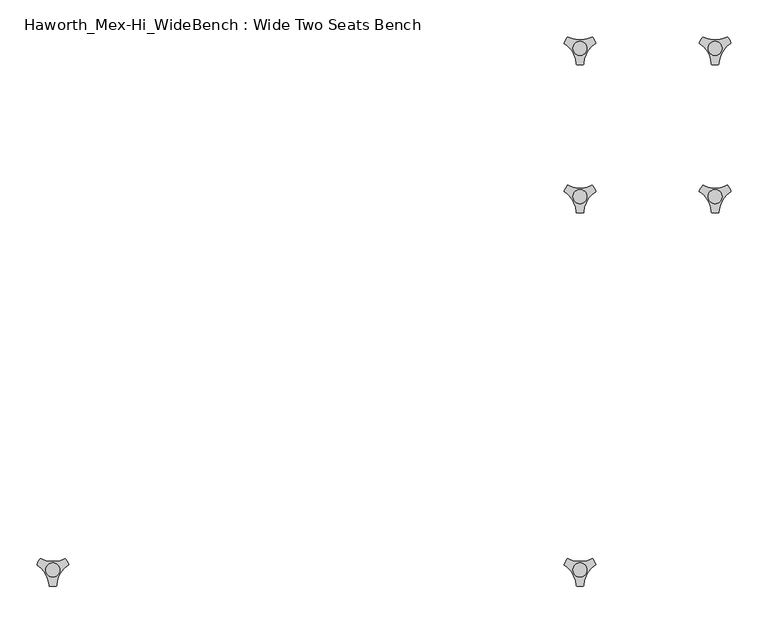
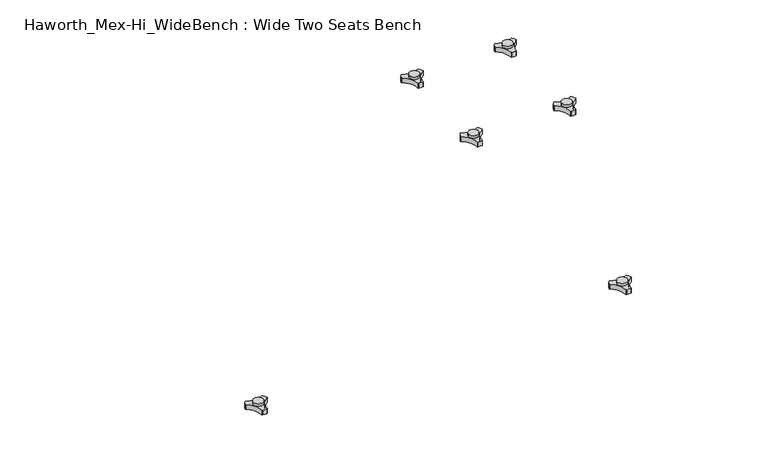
"""IFC4 building model written with IfcOpenShell, lengths in millimetres: furniture geometry, Haworth_Mex-Hi_WideBench : Wide Two Seats Bench."""

from ifc_helpers import new_model, si_unit, frame, origin, place, context, project, spatial, polyline, circle_curve, source, transform, mapped, element, save
from ifc_brep_helpers import plane_surface, cylinder_surface, revolved_surface, advanced_brep


def haworth_mex_hi_widebench_wide_two_seats_bench_e05f9d58(model_context):
    return source(origin(), model_context, "Body", "AdvancedBrep", [
        advanced_brep(
        [(373.838792, -130.2721038, 98.611642), (369.6162038, -137.585841, 98.611642), (370.0141527, -138.7518724, 98.611642), (385.8334234, -166.1516574, 98.611642), (386.6442569, -167.0792988, 98.611642), (395.0894355, -167.0792988, 98.611642), (395.8939637, -165.9895174, 98.611642), (411.9962168, -138.4877144, 98.611642), (412.1174938, -137.5858427, 98.611642), (407.8949039, -130.2721023, 98.611642), (406.6861204, -130.0337175, 98.611642), (375.047572, -130.0337175, 98.611642), (400.2397227, -145.1926245, 98.611642), (381.3347108, -145.1926245, 98.611642), (373.838792, -130.2721038, 88.6531552), (375.047572, -130.0337175, 88.6531552), (406.6861204, -130.0337175, 88.6531552), (407.8949039, -130.2721023, 88.6531552), (412.1174938, -137.5858427, 88.6531552), (411.9962168, -138.4877144, 88.6531552), (395.8939637, -165.9895174, 88.6531552), (395.0894355, -167.0792988, 88.6531552), (386.6442569, -167.0792988, 88.6531552), (385.8334234, -166.1516574, 88.6531552), (370.0141527, -138.7518724, 88.6531552), (369.6162038, -137.585841, 88.6531552), (381.3347108, -145.1926245, 103.6569541), (400.2397227, -145.1926245, 103.6569541)],
        [
            (0, 1, circle_curve(frame((392.09828, -145.690049, 98.611642), z_axis=(0.0, 0.0, 1.0), x_axis=(1.0, 0.0, 0.0)), 23.8981576)),
            (1, 2, circle_curve(frame((370.5437624, -137.920202, 98.611642), z_axis=(0.0, 0.0, 1.0), x_axis=(1.0, 0.0, 0.0)), 0.9859828)),
            (2, 3, circle_curve(frame((351.6187827, -167.6389644, 98.611642), z_axis=(0.0, 0.0, -1.0), x_axis=(1.0, 0.0, 0.0)), 34.246952)),
            (3, 4, circle_curve(frame((386.8184668, -166.1088376, 98.611642), z_axis=(0.0, 0.0, 1.0), x_axis=(1.0, 0.0, 0.0)), 0.9859736)),
            (4, 5, circle_curve(frame((390.8668462, -143.5567534, 98.611642), z_axis=(0.0, 0.0, 1.0), x_axis=(1.0, 0.0, 0.0)), 23.8985439)),
            (5, 6, circle_curve(frame((394.9152236, -166.1088262, 98.611642), z_axis=(0.0, 0.0, 1.0), x_axis=(1.0, 0.0, 0.0)), 0.9859852)),
            (6, 7, circle_curve(frame((430.1156373, -167.5614211, 98.611642), z_axis=(0.0, 0.0, -1.0), x_axis=(1.0, 0.0, 0.0)), 34.2577557)),
            (7, 8, circle_curve(frame((411.1899324, -137.9202011, 98.611642), z_axis=(0.0, 0.0, 1.0), x_axis=(1.0, 0.0, 0.0)), 0.9859847)),
            (8, 9, circle_curve(frame((389.6358034, -145.6898258, 98.611642), z_axis=(0.0, 0.0, 1.0), x_axis=(1.0, 0.0, 0.0)), 23.8977184)),
            (9, 10, circle_curve(frame((407.1415576, -130.9082171, 98.611642), z_axis=(0.0, 0.0, 1.0), x_axis=(1.0, 0.0, 0.0)), 0.9859881)),
            (10, 11, circle_curve(frame((390.8668462, -99.6586209, 98.611642), z_axis=(0.0, 0.0, -1.0), x_axis=(1.0, 0.0, 0.0)), 34.2475683)),
            (11, 0, circle_curve(frame((374.5921369, -130.9082131, 98.611642), z_axis=(0.0, 0.0, 1.0), x_axis=(1.0, 0.0, 0.0)), 0.9859835)),
            (12, 13, circle_curve(frame((390.7872168, -145.1926245, 98.611642), z_axis=(0.0, 0.0, -1.0), x_axis=(1.0, 0.0, 0.0)), 9.452506)),
            (13, 12, circle_curve(frame((390.7872168, -145.1926245, 98.611642), z_axis=(0.0, 0.0, -1.0), x_axis=(1.0, 0.0, 0.0)), 9.452506)),
            (14, 15, circle_curve(frame((374.5921369, -130.9082131, 88.6531552), z_axis=(0.0, 0.0, -1.0), x_axis=(1.0, 0.0, 0.0)), 0.9859835)),
            (15, 16, circle_curve(frame((390.8668462, -99.6586209, 88.6531552), z_axis=(0.0, 0.0, 1.0), x_axis=(1.0, 0.0, 0.0)), 34.2475683)),
            (16, 17, circle_curve(frame((407.1415576, -130.9082171, 88.6531552), z_axis=(0.0, 0.0, -1.0), x_axis=(1.0, 0.0, 0.0)), 0.9859881)),
            (17, 18, circle_curve(frame((389.6358034, -145.6898258, 88.6531552), z_axis=(0.0, 0.0, -1.0), x_axis=(1.0, 0.0, 0.0)), 23.8977184)),
            (18, 19, circle_curve(frame((411.1899324, -137.9202011, 88.6531552), z_axis=(0.0, 0.0, -1.0), x_axis=(1.0, 0.0, 0.0)), 0.9859847)),
            (19, 20, circle_curve(frame((430.1156373, -167.5614211, 88.6531552), z_axis=(0.0, 0.0, 1.0), x_axis=(1.0, 0.0, 0.0)), 34.2577557)),
            (20, 21, circle_curve(frame((394.9152236, -166.1088262, 88.6531552), z_axis=(0.0, 0.0, -1.0), x_axis=(1.0, 0.0, 0.0)), 0.9859852)),
            (21, 22, circle_curve(frame((390.8668462, -143.5567534, 88.6531552), z_axis=(0.0, 0.0, -1.0), x_axis=(1.0, 0.0, 0.0)), 23.8985439)),
            (22, 23, circle_curve(frame((386.8184668, -166.1088376, 88.6531552), z_axis=(0.0, 0.0, -1.0), x_axis=(1.0, 0.0, 0.0)), 0.9859736)),
            (23, 24, circle_curve(frame((351.6187827, -167.6389644, 88.6531552), z_axis=(0.0, 0.0, 1.0), x_axis=(1.0, 0.0, 0.0)), 34.246952)),
            (24, 25, circle_curve(frame((370.5437624, -137.920202, 88.6531552), z_axis=(0.0, 0.0, -1.0), x_axis=(1.0, 0.0, 0.0)), 0.9859828)),
            (25, 14, circle_curve(frame((392.09828, -145.690049, 88.6531552), z_axis=(0.0, 0.0, -1.0), x_axis=(1.0, 0.0, 0.0)), 23.8981576)),
            (26, 27, circle_curve(frame((390.7872168, -145.1926245, 103.6569541), z_axis=(0.0, 0.0, 1.0), x_axis=(1.0, 0.0, 0.0)), 9.452506)),
            (27, 26, circle_curve(frame((390.7872168, -145.1926245, 103.6569541), z_axis=(0.0, 0.0, 1.0), x_axis=(1.0, 0.0, 0.0)), 9.452506)),
            (0, 14),
            (25, 1),
            (24, 2),
            (23, 3),
            (22, 4),
            (21, 5),
            (20, 6),
            (19, 7),
            (18, 8),
            (17, 9),
            (16, 10),
            (15, 11),
            (26, 13),
            (12, 27),
        ],
        [
            plane_surface(frame((415.9964377, -145.690049, 98.611642), z_axis=(0.0, 0.0, 1.0), x_axis=(0.0, 1.0, 0.0))),
            plane_surface(frame((415.9964377, -145.690049, 88.6531552), z_axis=(0.0, 0.0, -1.0), x_axis=(0.0, -1.0, 0.0))),
            plane_surface(frame((400.2397227, -145.1926245, 103.6569541), z_axis=(0.0, 0.0, 1.0), x_axis=(0.0, 1.0, 0.0))),
            cylinder_surface(frame((392.09828, -145.690049, 88.6531552), z_axis=(0.0, 0.0, 1.0), x_axis=(1.0, 0.0, 0.0)), 23.8981576),
            cylinder_surface(frame((370.5437624, -137.920202, 88.6531552), z_axis=(0.0, 0.0, 1.0), x_axis=(1.0, 0.0, 0.0)), 0.9859828),
            revolved_surface(polyline([(385.8657347, -167.6389644, 88.6531552), (385.8657347, -167.6389644, 98.611642)]), (351.6187827, -167.6389644, 88.6531552), (0.0, 0.0, -1.0)),
            cylinder_surface(frame((386.8184668, -166.1088376, 88.6531552), z_axis=(0.0, 0.0, 1.0), x_axis=(1.0, 0.0, 0.0)), 0.9859736),
            cylinder_surface(frame((390.8668462, -143.5567534, 88.6531552), z_axis=(0.0, 0.0, 1.0), x_axis=(1.0, 0.0, 0.0)), 23.8985439),
            cylinder_surface(frame((394.9152236, -166.1088262, 88.6531552), z_axis=(0.0, 0.0, 1.0), x_axis=(1.0, 0.0, 0.0)), 0.9859852),
            revolved_surface(polyline([(464.373393, -167.5614211, 88.6531552), (464.373393, -167.5614211, 98.611642)]), (430.1156373, -167.5614211, 88.6531552), (0.0, 0.0, -1.0)),
            cylinder_surface(frame((411.1899324, -137.9202011, 88.6531552), z_axis=(0.0, 0.0, 1.0), x_axis=(1.0, 0.0, 0.0)), 0.9859847),
            cylinder_surface(frame((389.6358034, -145.6898258, 88.6531552), z_axis=(0.0, 0.0, 1.0), x_axis=(1.0, 0.0, 0.0)), 23.8977184),
            cylinder_surface(frame((407.1415576, -130.9082171, 88.6531552), z_axis=(0.0, 0.0, 1.0), x_axis=(1.0, 0.0, 0.0)), 0.9859881),
            revolved_surface(polyline([(425.1144145, -99.6586209, 88.6531552), (425.1144145, -99.6586209, 98.611642)]), (390.8668462, -99.6586209, 88.6531552), (0.0, 0.0, -1.0)),
            cylinder_surface(frame((374.5921369, -130.9082131, 88.6531552), z_axis=(0.0, 0.0, 1.0), x_axis=(1.0, 0.0, 0.0)), 0.9859835),
            cylinder_surface(frame((390.7872168, -145.1926245, 98.611642), z_axis=(0.0, 0.0, 1.0), x_axis=(1.0, 0.0, 0.0)), 9.452506),
        ],
        [
            (0, [[1, 2, 3, 4, 5, 6, 7, 8, 9, 10, 11, 12], [13, 14]]),
            (1, [[15, 16, 17, 18, 19, 20, 21, 22, 23, 24, 25, 26]]),
            (2, [[27, 28]]),
            (3, [[-1, 29, -26, 30]]),
            (4, [[-2, -30, -25, 31]]),
            (5, [[-3, -31, -24, 32]]),
            (6, [[-4, -32, -23, 33]]),
            (7, [[-5, -33, -22, 34]]),
            (8, [[-6, -34, -21, 35]]),
            (9, [[-7, -35, -20, 36]]),
            (10, [[-8, -36, -19, 37]]),
            (11, [[-9, -37, -18, 38]]),
            (12, [[-10, -38, -17, 39]]),
            (13, [[-11, -39, -16, 40]]),
            (14, [[-12, -40, -15, -29]]),
            (15, [[-27, 41, -13, 42]]),
            (15, [[-28, -42, -14, -41]]),
        ],
    ),
        advanced_brep(
        [(373.838792, 69.7278978, 98.611642), (369.6162038, 62.4141605, 98.611642), (370.0141527, 61.2481292, 98.611642), (385.8334234, 33.8483441, 98.611642), (386.6442569, 32.9207027, 98.611642), (395.0894355, 32.9207027, 98.611642), (395.8939637, 34.0104841, 98.611642), (411.9962168, 61.5122871, 98.611642), (412.1174938, 62.4141588, 98.611642), (407.8949039, 69.7278992, 98.611642), (406.6861204, 69.966284, 98.611642), (375.047572, 69.966284, 98.611642), (400.2397227, 54.807377, 98.611642), (381.3347108, 54.807377, 98.611642), (373.838792, 69.7278978, 88.6531552), (375.047572, 69.966284, 88.6531552), (406.6861204, 69.966284, 88.6531552), (407.8949039, 69.7278992, 88.6531552), (412.1174938, 62.4141588, 88.6531552), (411.9962168, 61.5122871, 88.6531552), (395.8939637, 34.0104841, 88.6531552), (395.0894355, 32.9207027, 88.6531552), (386.6442569, 32.9207027, 88.6531552), (385.8334234, 33.8483441, 88.6531552), (370.0141527, 61.2481292, 88.6531552), (369.6162038, 62.4141605, 88.6531552), (381.3347108, 54.807377, 103.6569541), (400.2397227, 54.807377, 103.6569541)],
        [
            (0, 1, circle_curve(frame((392.09828, 54.3099526, 98.611642), z_axis=(0.0, 0.0, 1.0), x_axis=(1.0, 0.0, 0.0)), 23.8981576)),
            (1, 2, circle_curve(frame((370.5437624, 62.0797996, 98.611642), z_axis=(0.0, 0.0, 1.0), x_axis=(1.0, 0.0, 0.0)), 0.9859828)),
            (2, 3, circle_curve(frame((351.6187827, 32.3610372, 98.611642), z_axis=(0.0, 0.0, -1.0), x_axis=(1.0, 0.0, 0.0)), 34.246952)),
            (3, 4, circle_curve(frame((386.8184668, 33.8911639, 98.611642), z_axis=(0.0, 0.0, 1.0), x_axis=(1.0, 0.0, 0.0)), 0.9859736)),
            (4, 5, circle_curve(frame((390.8668462, 56.4432481, 98.611642), z_axis=(0.0, 0.0, 1.0), x_axis=(1.0, 0.0, 0.0)), 23.8985439)),
            (5, 6, circle_curve(frame((394.9152236, 33.8911753, 98.611642), z_axis=(0.0, 0.0, 1.0), x_axis=(1.0, 0.0, 0.0)), 0.9859852)),
            (6, 7, circle_curve(frame((430.1156373, 32.4385804, 98.611642), z_axis=(0.0, 0.0, -1.0), x_axis=(1.0, 0.0, 0.0)), 34.2577557)),
            (7, 8, circle_curve(frame((411.1899324, 62.0798004, 98.611642), z_axis=(0.0, 0.0, 1.0), x_axis=(1.0, 0.0, 0.0)), 0.9859847)),
            (8, 9, circle_curve(frame((389.6358034, 54.3101757, 98.611642), z_axis=(0.0, 0.0, 1.0), x_axis=(1.0, 0.0, 0.0)), 23.8977184)),
            (9, 10, circle_curve(frame((407.1415576, 69.0917844, 98.611642), z_axis=(0.0, 0.0, 1.0), x_axis=(1.0, 0.0, 0.0)), 0.9859881)),
            (10, 11, circle_curve(frame((390.8668462, 100.3413806, 98.611642), z_axis=(0.0, 0.0, -1.0), x_axis=(1.0, 0.0, 0.0)), 34.2475683)),
            (11, 0, circle_curve(frame((374.5921369, 69.0917885, 98.611642), z_axis=(0.0, 0.0, 1.0), x_axis=(1.0, 0.0, 0.0)), 0.9859835)),
            (12, 13, circle_curve(frame((390.7872168, 54.807377, 98.611642), z_axis=(0.0, 0.0, -1.0), x_axis=(1.0, 0.0, 0.0)), 9.452506)),
            (13, 12, circle_curve(frame((390.7872168, 54.807377, 98.611642), z_axis=(0.0, 0.0, -1.0), x_axis=(1.0, 0.0, 0.0)), 9.452506)),
            (14, 15, circle_curve(frame((374.5921369, 69.0917885, 88.6531552), z_axis=(0.0, 0.0, -1.0), x_axis=(1.0, 0.0, 0.0)), 0.9859835)),
            (15, 16, circle_curve(frame((390.8668462, 100.3413806, 88.6531552), z_axis=(0.0, 0.0, 1.0), x_axis=(1.0, 0.0, 0.0)), 34.2475683)),
            (16, 17, circle_curve(frame((407.1415576, 69.0917844, 88.6531552), z_axis=(0.0, 0.0, -1.0), x_axis=(1.0, 0.0, 0.0)), 0.9859881)),
            (17, 18, circle_curve(frame((389.6358034, 54.3101757, 88.6531552), z_axis=(0.0, 0.0, -1.0), x_axis=(1.0, 0.0, 0.0)), 23.8977184)),
            (18, 19, circle_curve(frame((411.1899324, 62.0798004, 88.6531552), z_axis=(0.0, 0.0, -1.0), x_axis=(1.0, 0.0, 0.0)), 0.9859847)),
            (19, 20, circle_curve(frame((430.1156373, 32.4385804, 88.6531552), z_axis=(0.0, 0.0, 1.0), x_axis=(1.0, 0.0, 0.0)), 34.2577557)),
            (20, 21, circle_curve(frame((394.9152236, 33.8911753, 88.6531552), z_axis=(0.0, 0.0, -1.0), x_axis=(1.0, 0.0, 0.0)), 0.9859852)),
            (21, 22, circle_curve(frame((390.8668462, 56.4432481, 88.6531552), z_axis=(0.0, 0.0, -1.0), x_axis=(1.0, 0.0, 0.0)), 23.8985439)),
            (22, 23, circle_curve(frame((386.8184668, 33.8911639, 88.6531552), z_axis=(0.0, 0.0, -1.0), x_axis=(1.0, 0.0, 0.0)), 0.9859736)),
            (23, 24, circle_curve(frame((351.6187827, 32.3610372, 88.6531552), z_axis=(0.0, 0.0, 1.0), x_axis=(1.0, 0.0, 0.0)), 34.246952)),
            (24, 25, circle_curve(frame((370.5437624, 62.0797996, 88.6531552), z_axis=(0.0, 0.0, -1.0), x_axis=(1.0, 0.0, 0.0)), 0.9859828)),
            (25, 14, circle_curve(frame((392.09828, 54.3099526, 88.6531552), z_axis=(0.0, 0.0, -1.0), x_axis=(1.0, 0.0, 0.0)), 23.8981576)),
            (26, 27, circle_curve(frame((390.7872168, 54.807377, 103.6569541), z_axis=(0.0, 0.0, 1.0), x_axis=(1.0, 0.0, 0.0)), 9.452506)),
            (27, 26, circle_curve(frame((390.7872168, 54.807377, 103.6569541), z_axis=(0.0, 0.0, 1.0), x_axis=(1.0, 0.0, 0.0)), 9.452506)),
            (0, 14),
            (25, 1),
            (24, 2),
            (23, 3),
            (22, 4),
            (21, 5),
            (20, 6),
            (19, 7),
            (18, 8),
            (17, 9),
            (16, 10),
            (15, 11),
            (26, 13),
            (12, 27),
        ],
        [
            plane_surface(frame((415.9964377, 54.3099526, 98.611642), z_axis=(0.0, 0.0, 1.0), x_axis=(0.0, 1.0, 0.0))),
            plane_surface(frame((415.9964377, 54.3099526, 88.6531552), z_axis=(0.0, 0.0, -1.0), x_axis=(0.0, -1.0, 0.0))),
            plane_surface(frame((400.2397227, 54.807377, 103.6569541), z_axis=(0.0, 0.0, 1.0), x_axis=(0.0, 1.0, 0.0))),
            cylinder_surface(frame((392.09828, 54.3099526, 88.6531552), z_axis=(0.0, 0.0, 1.0), x_axis=(1.0, 0.0, 0.0)), 23.8981576),
            cylinder_surface(frame((370.5437624, 62.0797996, 88.6531552), z_axis=(0.0, 0.0, 1.0), x_axis=(1.0, 0.0, 0.0)), 0.9859828),
            revolved_surface(polyline([(385.8657347, 32.3610372, 88.6531552), (385.8657347, 32.3610372, 98.611642)]), (351.6187827, 32.3610372, 88.6531552), (0.0, 0.0, -1.0)),
            cylinder_surface(frame((386.8184668, 33.8911639, 88.6531552), z_axis=(0.0, 0.0, 1.0), x_axis=(1.0, 0.0, 0.0)), 0.9859736),
            cylinder_surface(frame((390.8668462, 56.4432481, 88.6531552), z_axis=(0.0, 0.0, 1.0), x_axis=(1.0, 0.0, 0.0)), 23.8985439),
            cylinder_surface(frame((394.9152236, 33.8911753, 88.6531552), z_axis=(0.0, 0.0, 1.0), x_axis=(1.0, 0.0, 0.0)), 0.9859852),
            revolved_surface(polyline([(464.373393, 32.4385804, 88.6531552), (464.373393, 32.4385804, 98.611642)]), (430.1156373, 32.4385804, 88.6531552), (0.0, 0.0, -1.0)),
            cylinder_surface(frame((411.1899324, 62.0798004, 88.6531552), z_axis=(0.0, 0.0, 1.0), x_axis=(1.0, 0.0, 0.0)), 0.9859847),
            cylinder_surface(frame((389.6358034, 54.3101757, 88.6531552), z_axis=(0.0, 0.0, 1.0), x_axis=(1.0, 0.0, 0.0)), 23.8977184),
            cylinder_surface(frame((407.1415576, 69.0917844, 88.6531552), z_axis=(0.0, 0.0, 1.0), x_axis=(1.0, 0.0, 0.0)), 0.9859881),
            revolved_surface(polyline([(425.1144145, 100.3413806, 88.6531552), (425.1144145, 100.3413806, 98.611642)]), (390.8668462, 100.3413806, 88.6531552), (0.0, 0.0, -1.0)),
            cylinder_surface(frame((374.5921369, 69.0917885, 88.6531552), z_axis=(0.0, 0.0, 1.0), x_axis=(1.0, 0.0, 0.0)), 0.9859835),
            cylinder_surface(frame((390.7872168, 54.807377, 98.611642), z_axis=(0.0, 0.0, 1.0), x_axis=(1.0, 0.0, 0.0)), 9.452506),
        ],
        [
            (0, [[1, 2, 3, 4, 5, 6, 7, 8, 9, 10, 11, 12], [13, 14]]),
            (1, [[15, 16, 17, 18, 19, 20, 21, 22, 23, 24, 25, 26]]),
            (2, [[27, 28]]),
            (3, [[-1, 29, -26, 30]]),
            (4, [[-2, -30, -25, 31]]),
            (5, [[-3, -31, -24, 32]]),
            (6, [[-4, -32, -23, 33]]),
            (7, [[-5, -33, -22, 34]]),
            (8, [[-6, -34, -21, 35]]),
            (9, [[-7, -35, -20, 36]]),
            (10, [[-8, -36, -19, 37]]),
            (11, [[-9, -37, -18, 38]]),
            (12, [[-10, -38, -17, 39]]),
            (13, [[-11, -39, -16, 40]]),
            (14, [[-12, -40, -15, -29]]),
            (15, [[-27, 41, -13, 42]]),
            (15, [[-28, -42, -14, -41]]),
        ],
    ),
        advanced_brep(
        [(191.4388063, 69.7278978, 98.611642), (187.2162181, 62.4141605, 98.611642), (187.614167, 61.2481292, 98.611642), (203.4334377, 33.8483441, 98.611642), (204.2442712, 32.9207027, 98.611642), (212.6894498, 32.9207027, 98.611642), (213.493978, 34.0104841, 98.611642), (229.5962311, 61.5122871, 98.611642), (229.7175081, 62.4141588, 98.611642), (225.4949182, 69.7278992, 98.611642), (224.2861347, 69.966284, 98.611642), (192.6475863, 69.966284, 98.611642), (217.839737, 54.807377, 98.611642), (198.9347251, 54.807377, 98.611642), (191.4388063, 69.7278978, 88.6531552), (192.6475863, 69.966284, 88.6531552), (224.2861347, 69.966284, 88.6531552), (225.4949182, 69.7278992, 88.6531552), (229.7175081, 62.4141588, 88.6531552), (229.5962311, 61.5122871, 88.6531552), (213.493978, 34.0104841, 88.6531552), (212.6894498, 32.9207027, 88.6531552), (204.2442712, 32.9207027, 88.6531552), (203.4334377, 33.8483441, 88.6531552), (187.614167, 61.2481292, 88.6531552), (187.2162181, 62.4141605, 88.6531552), (198.9347251, 54.807377, 103.6569541), (217.839737, 54.807377, 103.6569541)],
        [
            (0, 1, circle_curve(frame((209.6982944, 54.3099526, 98.611642), z_axis=(0.0, 0.0, 1.0), x_axis=(1.0, 0.0, 0.0)), 23.8981576)),
            (1, 2, circle_curve(frame((188.1437767, 62.0797996, 98.611642), z_axis=(0.0, 0.0, 1.0), x_axis=(1.0, 0.0, 0.0)), 0.9859828)),
            (2, 3, circle_curve(frame((169.218797, 32.3610372, 98.611642), z_axis=(0.0, 0.0, -1.0), x_axis=(1.0, 0.0, 0.0)), 34.246952)),
            (3, 4, circle_curve(frame((204.4184811, 33.8911639, 98.611642), z_axis=(0.0, 0.0, 1.0), x_axis=(1.0, 0.0, 0.0)), 0.9859736)),
            (4, 5, circle_curve(frame((208.4668605, 56.4432481, 98.611642), z_axis=(0.0, 0.0, 1.0), x_axis=(1.0, 0.0, 0.0)), 23.8985439)),
            (5, 6, circle_curve(frame((212.5152379, 33.8911753, 98.611642), z_axis=(0.0, 0.0, 1.0), x_axis=(1.0, 0.0, 0.0)), 0.9859852)),
            (6, 7, circle_curve(frame((247.7156517, 32.4385804, 98.611642), z_axis=(0.0, 0.0, -1.0), x_axis=(1.0, 0.0, 0.0)), 34.2577557)),
            (7, 8, circle_curve(frame((228.7899467, 62.0798004, 98.611642), z_axis=(0.0, 0.0, 1.0), x_axis=(1.0, 0.0, 0.0)), 0.9859847)),
            (8, 9, circle_curve(frame((207.2358178, 54.3101757, 98.611642), z_axis=(0.0, 0.0, 1.0), x_axis=(1.0, 0.0, 0.0)), 23.8977184)),
            (9, 10, circle_curve(frame((224.7415719, 69.0917844, 98.611642), z_axis=(0.0, 0.0, 1.0), x_axis=(1.0, 0.0, 0.0)), 0.9859881)),
            (10, 11, circle_curve(frame((208.4668605, 100.3413806, 98.611642), z_axis=(0.0, 0.0, -1.0), x_axis=(1.0, 0.0, 0.0)), 34.2475683)),
            (11, 0, circle_curve(frame((192.1921512, 69.0917885, 98.611642), z_axis=(0.0, 0.0, 1.0), x_axis=(1.0, 0.0, 0.0)), 0.9859835)),
            (12, 13, circle_curve(frame((208.3872311, 54.807377, 98.611642), z_axis=(0.0, 0.0, -1.0), x_axis=(1.0, 0.0, 0.0)), 9.452506)),
            (13, 12, circle_curve(frame((208.3872311, 54.807377, 98.611642), z_axis=(0.0, 0.0, -1.0), x_axis=(1.0, 0.0, 0.0)), 9.452506)),
            (14, 15, circle_curve(frame((192.1921512, 69.0917885, 88.6531552), z_axis=(0.0, 0.0, -1.0), x_axis=(1.0, 0.0, 0.0)), 0.9859835)),
            (15, 16, circle_curve(frame((208.4668605, 100.3413806, 88.6531552), z_axis=(0.0, 0.0, 1.0), x_axis=(1.0, 0.0, 0.0)), 34.2475683)),
            (16, 17, circle_curve(frame((224.7415719, 69.0917844, 88.6531552), z_axis=(0.0, 0.0, -1.0), x_axis=(1.0, 0.0, 0.0)), 0.9859881)),
            (17, 18, circle_curve(frame((207.2358178, 54.3101757, 88.6531552), z_axis=(0.0, 0.0, -1.0), x_axis=(1.0, 0.0, 0.0)), 23.8977184)),
            (18, 19, circle_curve(frame((228.7899467, 62.0798004, 88.6531552), z_axis=(0.0, 0.0, -1.0), x_axis=(1.0, 0.0, 0.0)), 0.9859847)),
            (19, 20, circle_curve(frame((247.7156517, 32.4385804, 88.6531552), z_axis=(0.0, 0.0, 1.0), x_axis=(1.0, 0.0, 0.0)), 34.2577557)),
            (20, 21, circle_curve(frame((212.5152379, 33.8911753, 88.6531552), z_axis=(0.0, 0.0, -1.0), x_axis=(1.0, 0.0, 0.0)), 0.9859852)),
            (21, 22, circle_curve(frame((208.4668605, 56.4432481, 88.6531552), z_axis=(0.0, 0.0, -1.0), x_axis=(1.0, 0.0, 0.0)), 23.8985439)),
            (22, 23, circle_curve(frame((204.4184811, 33.8911639, 88.6531552), z_axis=(0.0, 0.0, -1.0), x_axis=(1.0, 0.0, 0.0)), 0.9859736)),
            (23, 24, circle_curve(frame((169.218797, 32.3610372, 88.6531552), z_axis=(0.0, 0.0, 1.0), x_axis=(1.0, 0.0, 0.0)), 34.246952)),
            (24, 25, circle_curve(frame((188.1437767, 62.0797996, 88.6531552), z_axis=(0.0, 0.0, -1.0), x_axis=(1.0, 0.0, 0.0)), 0.9859828)),
            (25, 14, circle_curve(frame((209.6982944, 54.3099526, 88.6531552), z_axis=(0.0, 0.0, -1.0), x_axis=(1.0, 0.0, 0.0)), 23.8981576)),
            (26, 27, circle_curve(frame((208.3872311, 54.807377, 103.6569541), z_axis=(0.0, 0.0, 1.0), x_axis=(1.0, 0.0, 0.0)), 9.452506)),
            (27, 26, circle_curve(frame((208.3872311, 54.807377, 103.6569541), z_axis=(0.0, 0.0, 1.0), x_axis=(1.0, 0.0, 0.0)), 9.452506)),
            (0, 14),
            (25, 1),
            (24, 2),
            (23, 3),
            (22, 4),
            (21, 5),
            (20, 6),
            (19, 7),
            (18, 8),
            (17, 9),
            (16, 10),
            (15, 11),
            (26, 13),
            (12, 27),
        ],
        [
            plane_surface(frame((233.596452, 54.3099526, 98.611642), z_axis=(0.0, 0.0, 1.0), x_axis=(0.0, 1.0, 0.0))),
            plane_surface(frame((233.596452, 54.3099526, 88.6531552), z_axis=(0.0, 0.0, -1.0), x_axis=(0.0, -1.0, 0.0))),
            plane_surface(frame((217.839737, 54.807377, 103.6569541), z_axis=(0.0, 0.0, 1.0), x_axis=(0.0, 1.0, 0.0))),
            cylinder_surface(frame((209.6982944, 54.3099526, 88.6531552), z_axis=(0.0, 0.0, 1.0), x_axis=(1.0, 0.0, 0.0)), 23.8981576),
            cylinder_surface(frame((188.1437767, 62.0797996, 88.6531552), z_axis=(0.0, 0.0, 1.0), x_axis=(1.0, 0.0, 0.0)), 0.9859828),
            revolved_surface(polyline([(203.465749, 32.3610372, 88.6531552), (203.465749, 32.3610372, 98.611642)]), (169.218797, 32.3610372, 88.6531552), (0.0, 0.0, -1.0)),
            cylinder_surface(frame((204.4184811, 33.8911639, 88.6531552), z_axis=(0.0, 0.0, 1.0), x_axis=(1.0, 0.0, 0.0)), 0.9859736),
            cylinder_surface(frame((208.4668605, 56.4432481, 88.6531552), z_axis=(0.0, 0.0, 1.0), x_axis=(1.0, 0.0, 0.0)), 23.8985439),
            cylinder_surface(frame((212.5152379, 33.8911753, 88.6531552), z_axis=(0.0, 0.0, 1.0), x_axis=(1.0, 0.0, 0.0)), 0.9859852),
            revolved_surface(polyline([(281.9734074, 32.4385804, 88.6531552), (281.9734074, 32.4385804, 98.611642)]), (247.7156517, 32.4385804, 88.6531552), (0.0, 0.0, -1.0)),
            cylinder_surface(frame((228.7899467, 62.0798004, 88.6531552), z_axis=(0.0, 0.0, 1.0), x_axis=(1.0, 0.0, 0.0)), 0.9859847),
            cylinder_surface(frame((207.2358178, 54.3101757, 88.6531552), z_axis=(0.0, 0.0, 1.0), x_axis=(1.0, 0.0, 0.0)), 23.8977184),
            cylinder_surface(frame((224.7415719, 69.0917844, 88.6531552), z_axis=(0.0, 0.0, 1.0), x_axis=(1.0, 0.0, 0.0)), 0.9859881),
            revolved_surface(polyline([(242.7144288, 100.3413806, 88.6531552), (242.7144288, 100.3413806, 98.611642)]), (208.4668605, 100.3413806, 88.6531552), (0.0, 0.0, -1.0)),
            cylinder_surface(frame((192.1921512, 69.0917885, 88.6531552), z_axis=(0.0, 0.0, 1.0), x_axis=(1.0, 0.0, 0.0)), 0.9859835),
            cylinder_surface(frame((208.3872311, 54.807377, 98.611642), z_axis=(0.0, 0.0, 1.0), x_axis=(1.0, 0.0, 0.0)), 9.452506),
        ],
        [
            (0, [[1, 2, 3, 4, 5, 6, 7, 8, 9, 10, 11, 12], [13, 14]]),
            (1, [[15, 16, 17, 18, 19, 20, 21, 22, 23, 24, 25, 26]]),
            (2, [[27, 28]]),
            (3, [[-1, 29, -26, 30]]),
            (4, [[-2, -30, -25, 31]]),
            (5, [[-3, -31, -24, 32]]),
            (6, [[-4, -32, -23, 33]]),
            (7, [[-5, -33, -22, 34]]),
            (8, [[-6, -34, -21, 35]]),
            (9, [[-7, -35, -20, 36]]),
            (10, [[-8, -36, -19, 37]]),
            (11, [[-9, -37, -18, 38]]),
            (12, [[-10, -38, -17, 39]]),
            (13, [[-11, -39, -16, 40]]),
            (14, [[-12, -40, -15, -29]]),
            (15, [[-27, 41, -13, 42]]),
            (15, [[-28, -42, -14, -41]]),
        ],
    ),
        advanced_brep(
        [(191.4388063, -130.2721038, 98.611642), (187.2162181, -137.585841, 98.611642), (187.614167, -138.7518724, 98.611642), (203.4334377, -166.1516574, 98.611642), (204.2442712, -167.0792988, 98.611642), (212.6894498, -167.0792988, 98.611642), (213.493978, -165.9895174, 98.611642), (229.5962311, -138.4877144, 98.611642), (229.7175081, -137.5858427, 98.611642), (225.4949182, -130.2721023, 98.611642), (224.2861347, -130.0337175, 98.611642), (192.6475863, -130.0337175, 98.611642), (217.839737, -145.1926245, 98.611642), (198.9347251, -145.1926245, 98.611642), (191.4388063, -130.2721038, 88.6531552), (192.6475863, -130.0337175, 88.6531552), (224.2861347, -130.0337175, 88.6531552), (225.4949182, -130.2721023, 88.6531552), (229.7175081, -137.5858427, 88.6531552), (229.5962311, -138.4877144, 88.6531552), (213.493978, -165.9895174, 88.6531552), (212.6894498, -167.0792988, 88.6531552), (204.2442712, -167.0792988, 88.6531552), (203.4334377, -166.1516574, 88.6531552), (187.614167, -138.7518724, 88.6531552), (187.2162181, -137.585841, 88.6531552), (198.9347251, -145.1926245, 103.6569541), (217.839737, -145.1926245, 103.6569541)],
        [
            (0, 1, circle_curve(frame((209.6982944, -145.690049, 98.611642), z_axis=(0.0, 0.0, 1.0), x_axis=(1.0, 0.0, 0.0)), 23.8981576)),
            (1, 2, circle_curve(frame((188.1437767, -137.920202, 98.611642), z_axis=(0.0, 0.0, 1.0), x_axis=(1.0, 0.0, 0.0)), 0.9859828)),
            (2, 3, circle_curve(frame((169.218797, -167.6389644, 98.611642), z_axis=(0.0, 0.0, -1.0), x_axis=(1.0, 0.0, 0.0)), 34.246952)),
            (3, 4, circle_curve(frame((204.4184811, -166.1088376, 98.611642), z_axis=(0.0, 0.0, 1.0), x_axis=(1.0, 0.0, 0.0)), 0.9859736)),
            (4, 5, circle_curve(frame((208.4668605, -143.5567534, 98.611642), z_axis=(0.0, 0.0, 1.0), x_axis=(1.0, 0.0, 0.0)), 23.8985439)),
            (5, 6, circle_curve(frame((212.5152379, -166.1088262, 98.611642), z_axis=(0.0, 0.0, 1.0), x_axis=(1.0, 0.0, 0.0)), 0.9859852)),
            (6, 7, circle_curve(frame((247.7156517, -167.5614211, 98.611642), z_axis=(0.0, 0.0, -1.0), x_axis=(1.0, 0.0, 0.0)), 34.2577557)),
            (7, 8, circle_curve(frame((228.7899467, -137.9202011, 98.611642), z_axis=(0.0, 0.0, 1.0), x_axis=(1.0, 0.0, 0.0)), 0.9859847)),
            (8, 9, circle_curve(frame((207.2358178, -145.6898258, 98.611642), z_axis=(0.0, 0.0, 1.0), x_axis=(1.0, 0.0, 0.0)), 23.8977184)),
            (9, 10, circle_curve(frame((224.7415719, -130.9082171, 98.611642), z_axis=(0.0, 0.0, 1.0), x_axis=(1.0, 0.0, 0.0)), 0.9859881)),
            (10, 11, circle_curve(frame((208.4668605, -99.6586209, 98.611642), z_axis=(0.0, 0.0, -1.0), x_axis=(1.0, 0.0, 0.0)), 34.2475683)),
            (11, 0, circle_curve(frame((192.1921512, -130.9082131, 98.611642), z_axis=(0.0, 0.0, 1.0), x_axis=(1.0, 0.0, 0.0)), 0.9859835)),
            (12, 13, circle_curve(frame((208.3872311, -145.1926245, 98.611642), z_axis=(0.0, 0.0, -1.0), x_axis=(1.0, 0.0, 0.0)), 9.452506)),
            (13, 12, circle_curve(frame((208.3872311, -145.1926245, 98.611642), z_axis=(0.0, 0.0, -1.0), x_axis=(1.0, 0.0, 0.0)), 9.452506)),
            (14, 15, circle_curve(frame((192.1921512, -130.9082131, 88.6531552), z_axis=(0.0, 0.0, -1.0), x_axis=(1.0, 0.0, 0.0)), 0.9859835)),
            (15, 16, circle_curve(frame((208.4668605, -99.6586209, 88.6531552), z_axis=(0.0, 0.0, 1.0), x_axis=(1.0, 0.0, 0.0)), 34.2475683)),
            (16, 17, circle_curve(frame((224.7415719, -130.9082171, 88.6531552), z_axis=(0.0, 0.0, -1.0), x_axis=(1.0, 0.0, 0.0)), 0.9859881)),
            (17, 18, circle_curve(frame((207.2358178, -145.6898258, 88.6531552), z_axis=(0.0, 0.0, -1.0), x_axis=(1.0, 0.0, 0.0)), 23.8977184)),
            (18, 19, circle_curve(frame((228.7899467, -137.9202011, 88.6531552), z_axis=(0.0, 0.0, -1.0), x_axis=(1.0, 0.0, 0.0)), 0.9859847)),
            (19, 20, circle_curve(frame((247.7156517, -167.5614211, 88.6531552), z_axis=(0.0, 0.0, 1.0), x_axis=(1.0, 0.0, 0.0)), 34.2577557)),
            (20, 21, circle_curve(frame((212.5152379, -166.1088262, 88.6531552), z_axis=(0.0, 0.0, -1.0), x_axis=(1.0, 0.0, 0.0)), 0.9859852)),
            (21, 22, circle_curve(frame((208.4668605, -143.5567534, 88.6531552), z_axis=(0.0, 0.0, -1.0), x_axis=(1.0, 0.0, 0.0)), 23.8985439)),
            (22, 23, circle_curve(frame((204.4184811, -166.1088376, 88.6531552), z_axis=(0.0, 0.0, -1.0), x_axis=(1.0, 0.0, 0.0)), 0.9859736)),
            (23, 24, circle_curve(frame((169.218797, -167.6389644, 88.6531552), z_axis=(0.0, 0.0, 1.0), x_axis=(1.0, 0.0, 0.0)), 34.246952)),
            (24, 25, circle_curve(frame((188.1437767, -137.920202, 88.6531552), z_axis=(0.0, 0.0, -1.0), x_axis=(1.0, 0.0, 0.0)), 0.9859828)),
            (25, 14, circle_curve(frame((209.6982944, -145.690049, 88.6531552), z_axis=(0.0, 0.0, -1.0), x_axis=(1.0, 0.0, 0.0)), 23.8981576)),
            (26, 27, circle_curve(frame((208.3872311, -145.1926245, 103.6569541), z_axis=(0.0, 0.0, 1.0), x_axis=(1.0, 0.0, 0.0)), 9.452506)),
            (27, 26, circle_curve(frame((208.3872311, -145.1926245, 103.6569541), z_axis=(0.0, 0.0, 1.0), x_axis=(1.0, 0.0, 0.0)), 9.452506)),
            (0, 14),
            (25, 1),
            (24, 2),
            (23, 3),
            (22, 4),
            (21, 5),
            (20, 6),
            (19, 7),
            (18, 8),
            (17, 9),
            (16, 10),
            (15, 11),
            (26, 13),
            (12, 27),
        ],
        [
            plane_surface(frame((233.596452, -145.690049, 98.611642), z_axis=(0.0, 0.0, 1.0), x_axis=(0.0, 1.0, 0.0))),
            plane_surface(frame((233.596452, -145.690049, 88.6531552), z_axis=(0.0, 0.0, -1.0), x_axis=(0.0, -1.0, 0.0))),
            plane_surface(frame((217.839737, -145.1926245, 103.6569541), z_axis=(0.0, 0.0, 1.0), x_axis=(0.0, 1.0, 0.0))),
            cylinder_surface(frame((209.6982944, -145.690049, 88.6531552), z_axis=(0.0, 0.0, 1.0), x_axis=(1.0, 0.0, 0.0)), 23.8981576),
            cylinder_surface(frame((188.1437767, -137.920202, 88.6531552), z_axis=(0.0, 0.0, 1.0), x_axis=(1.0, 0.0, 0.0)), 0.9859828),
            revolved_surface(polyline([(203.465749, -167.6389644, 88.6531552), (203.465749, -167.6389644, 98.611642)]), (169.218797, -167.6389644, 88.6531552), (0.0, 0.0, -1.0)),
            cylinder_surface(frame((204.4184811, -166.1088376, 88.6531552), z_axis=(0.0, 0.0, 1.0), x_axis=(1.0, 0.0, 0.0)), 0.9859736),
            cylinder_surface(frame((208.4668605, -143.5567534, 88.6531552), z_axis=(0.0, 0.0, 1.0), x_axis=(1.0, 0.0, 0.0)), 23.8985439),
            cylinder_surface(frame((212.5152379, -166.1088262, 88.6531552), z_axis=(0.0, 0.0, 1.0), x_axis=(1.0, 0.0, 0.0)), 0.9859852),
            revolved_surface(polyline([(281.9734074, -167.5614211, 88.6531552), (281.9734074, -167.5614211, 98.611642)]), (247.7156517, -167.5614211, 88.6531552), (0.0, 0.0, -1.0)),
            cylinder_surface(frame((228.7899467, -137.9202011, 88.6531552), z_axis=(0.0, 0.0, 1.0), x_axis=(1.0, 0.0, 0.0)), 0.9859847),
            cylinder_surface(frame((207.2358178, -145.6898258, 88.6531552), z_axis=(0.0, 0.0, 1.0), x_axis=(1.0, 0.0, 0.0)), 23.8977184),
            cylinder_surface(frame((224.7415719, -130.9082171, 88.6531552), z_axis=(0.0, 0.0, 1.0), x_axis=(1.0, 0.0, 0.0)), 0.9859881),
            revolved_surface(polyline([(242.7144288, -99.6586209, 88.6531552), (242.7144288, -99.6586209, 98.611642)]), (208.4668605, -99.6586209, 88.6531552), (0.0, 0.0, -1.0)),
            cylinder_surface(frame((192.1921512, -130.9082131, 88.6531552), z_axis=(0.0, 0.0, 1.0), x_axis=(1.0, 0.0, 0.0)), 0.9859835),
            cylinder_surface(frame((208.3872311, -145.1926245, 98.611642), z_axis=(0.0, 0.0, 1.0), x_axis=(1.0, 0.0, 0.0)), 9.452506),
        ],
        [
            (0, [[1, 2, 3, 4, 5, 6, 7, 8, 9, 10, 11, 12], [13, 14]]),
            (1, [[15, 16, 17, 18, 19, 20, 21, 22, 23, 24, 25, 26]]),
            (2, [[27, 28]]),
            (3, [[-1, 29, -26, 30]]),
            (4, [[-2, -30, -25, 31]]),
            (5, [[-3, -31, -24, 32]]),
            (6, [[-4, -32, -23, 33]]),
            (7, [[-5, -33, -22, 34]]),
            (8, [[-6, -34, -21, 35]]),
            (9, [[-7, -35, -20, 36]]),
            (10, [[-8, -36, -19, 37]]),
            (11, [[-9, -37, -18, 38]]),
            (12, [[-10, -38, -17, 39]]),
            (13, [[-11, -39, -16, 40]]),
            (14, [[-12, -40, -15, -29]]),
            (15, [[-27, 41, -13, 42]]),
            (15, [[-28, -42, -14, -41]]),
        ],
    ),
        advanced_brep(
        [(191.4388063, -633.9963447, 98.611642), (187.2162181, -641.3100819, 98.611642), (187.614167, -642.4761133, 98.611642), (203.4334377, -669.8758983, 98.611642), (204.2442712, -670.8035397, 98.611642), (212.6894498, -670.8035397, 98.611642), (213.493978, -669.7137583, 98.611642), (229.5962311, -642.2119553, 98.611642), (229.7175081, -641.3100836, 98.611642), (225.4949182, -633.9963432, 98.611642), (224.2861347, -633.7579584, 98.611642), (192.6475863, -633.7579584, 98.611642), (217.839737, -648.9168654, 98.611642), (198.9347251, -648.9168654, 98.611642), (191.4388063, -633.9963447, 88.6531552), (192.6475863, -633.7579584, 88.6531552), (224.2861347, -633.7579584, 88.6531552), (225.4949182, -633.9963432, 88.6531552), (229.7175081, -641.3100836, 88.6531552), (229.5962311, -642.2119553, 88.6531552), (213.493978, -669.7137583, 88.6531552), (212.6894498, -670.8035397, 88.6531552), (204.2442712, -670.8035397, 88.6531552), (203.4334377, -669.8758983, 88.6531552), (187.614167, -642.4761133, 88.6531552), (187.2162181, -641.3100819, 88.6531552), (198.9347251, -648.9168654, 103.6569541), (217.839737, -648.9168654, 103.6569541)],
        [
            (0, 1, circle_curve(frame((209.6982944, -649.4142898, 98.611642), z_axis=(0.0, 0.0, 1.0), x_axis=(1.0, 0.0, 0.0)), 23.8981576)),
            (1, 2, circle_curve(frame((188.1437767, -641.6444428, 98.611642), z_axis=(0.0, 0.0, 1.0), x_axis=(1.0, 0.0, 0.0)), 0.9859828)),
            (2, 3, circle_curve(frame((169.218797, -671.3632053, 98.611642), z_axis=(0.0, 0.0, -1.0), x_axis=(1.0, 0.0, 0.0)), 34.246952)),
            (3, 4, circle_curve(frame((204.4184811, -669.8330785, 98.611642), z_axis=(0.0, 0.0, 1.0), x_axis=(1.0, 0.0, 0.0)), 0.9859736)),
            (4, 5, circle_curve(frame((208.4668605, -647.2809943, 98.611642), z_axis=(0.0, 0.0, 1.0), x_axis=(1.0, 0.0, 0.0)), 23.8985439)),
            (5, 6, circle_curve(frame((212.5152379, -669.8330671, 98.611642), z_axis=(0.0, 0.0, 1.0), x_axis=(1.0, 0.0, 0.0)), 0.9859852)),
            (6, 7, circle_curve(frame((247.7156517, -671.285662, 98.611642), z_axis=(0.0, 0.0, -1.0), x_axis=(1.0, 0.0, 0.0)), 34.2577557)),
            (7, 8, circle_curve(frame((228.7899467, -641.644442, 98.611642), z_axis=(0.0, 0.0, 1.0), x_axis=(1.0, 0.0, 0.0)), 0.9859847)),
            (8, 9, circle_curve(frame((207.2358178, -649.4140667, 98.611642), z_axis=(0.0, 0.0, 1.0), x_axis=(1.0, 0.0, 0.0)), 23.8977184)),
            (9, 10, circle_curve(frame((224.7415719, -634.632458, 98.611642), z_axis=(0.0, 0.0, 1.0), x_axis=(1.0, 0.0, 0.0)), 0.9859881)),
            (10, 11, circle_curve(frame((208.4668605, -603.3828618, 98.611642), z_axis=(0.0, 0.0, -1.0), x_axis=(1.0, 0.0, 0.0)), 34.2475683)),
            (11, 0, circle_curve(frame((192.1921512, -634.632454, 98.611642), z_axis=(0.0, 0.0, 1.0), x_axis=(1.0, 0.0, 0.0)), 0.9859835)),
            (12, 13, circle_curve(frame((208.3872311, -648.9168654, 98.611642), z_axis=(0.0, 0.0, -1.0), x_axis=(1.0, 0.0, 0.0)), 9.452506)),
            (13, 12, circle_curve(frame((208.3872311, -648.9168654, 98.611642), z_axis=(0.0, 0.0, -1.0), x_axis=(1.0, 0.0, 0.0)), 9.452506)),
            (14, 15, circle_curve(frame((192.1921512, -634.632454, 88.6531552), z_axis=(0.0, 0.0, -1.0), x_axis=(1.0, 0.0, 0.0)), 0.9859835)),
            (15, 16, circle_curve(frame((208.4668605, -603.3828618, 88.6531552), z_axis=(0.0, 0.0, 1.0), x_axis=(1.0, 0.0, 0.0)), 34.2475683)),
            (16, 17, circle_curve(frame((224.7415719, -634.632458, 88.6531552), z_axis=(0.0, 0.0, -1.0), x_axis=(1.0, 0.0, 0.0)), 0.9859881)),
            (17, 18, circle_curve(frame((207.2358178, -649.4140667, 88.6531552), z_axis=(0.0, 0.0, -1.0), x_axis=(1.0, 0.0, 0.0)), 23.8977184)),
            (18, 19, circle_curve(frame((228.7899467, -641.644442, 88.6531552), z_axis=(0.0, 0.0, -1.0), x_axis=(1.0, 0.0, 0.0)), 0.9859847)),
            (19, 20, circle_curve(frame((247.7156517, -671.285662, 88.6531552), z_axis=(0.0, 0.0, 1.0), x_axis=(1.0, 0.0, 0.0)), 34.2577557)),
            (20, 21, circle_curve(frame((212.5152379, -669.8330671, 88.6531552), z_axis=(0.0, 0.0, -1.0), x_axis=(1.0, 0.0, 0.0)), 0.9859852)),
            (21, 22, circle_curve(frame((208.4668605, -647.2809943, 88.6531552), z_axis=(0.0, 0.0, -1.0), x_axis=(1.0, 0.0, 0.0)), 23.8985439)),
            (22, 23, circle_curve(frame((204.4184811, -669.8330785, 88.6531552), z_axis=(0.0, 0.0, -1.0), x_axis=(1.0, 0.0, 0.0)), 0.9859736)),
            (23, 24, circle_curve(frame((169.218797, -671.3632053, 88.6531552), z_axis=(0.0, 0.0, 1.0), x_axis=(1.0, 0.0, 0.0)), 34.246952)),
            (24, 25, circle_curve(frame((188.1437767, -641.6444428, 88.6531552), z_axis=(0.0, 0.0, -1.0), x_axis=(1.0, 0.0, 0.0)), 0.9859828)),
            (25, 14, circle_curve(frame((209.6982944, -649.4142898, 88.6531552), z_axis=(0.0, 0.0, -1.0), x_axis=(1.0, 0.0, 0.0)), 23.8981576)),
            (26, 27, circle_curve(frame((208.3872311, -648.9168654, 103.6569541), z_axis=(0.0, 0.0, 1.0), x_axis=(1.0, 0.0, 0.0)), 9.452506)),
            (27, 26, circle_curve(frame((208.3872311, -648.9168654, 103.6569541), z_axis=(0.0, 0.0, 1.0), x_axis=(1.0, 0.0, 0.0)), 9.452506)),
            (0, 14),
            (25, 1),
            (24, 2),
            (23, 3),
            (22, 4),
            (21, 5),
            (20, 6),
            (19, 7),
            (18, 8),
            (17, 9),
            (16, 10),
            (15, 11),
            (26, 13),
            (12, 27),
        ],
        [
            plane_surface(frame((233.596452, -649.4142898, 98.611642), z_axis=(0.0, 0.0, 1.0), x_axis=(0.0, 1.0, 0.0))),
            plane_surface(frame((233.596452, -649.4142898, 88.6531552), z_axis=(0.0, 0.0, -1.0), x_axis=(0.0, -1.0, 0.0))),
            plane_surface(frame((217.839737, -648.9168654, 103.6569541), z_axis=(0.0, 0.0, 1.0), x_axis=(0.0, 1.0, 0.0))),
            cylinder_surface(frame((209.6982944, -649.4142898, 88.6531552), z_axis=(0.0, 0.0, 1.0), x_axis=(1.0, 0.0, 0.0)), 23.8981576),
            cylinder_surface(frame((188.1437767, -641.6444428, 88.6531552), z_axis=(0.0, 0.0, 1.0), x_axis=(1.0, 0.0, 0.0)), 0.9859828),
            revolved_surface(polyline([(203.465749, -671.3632053, 88.6531552), (203.465749, -671.3632053, 98.611642)]), (169.218797, -671.3632053, 88.6531552), (0.0, 0.0, -1.0)),
            cylinder_surface(frame((204.4184811, -669.8330785, 88.6531552), z_axis=(0.0, 0.0, 1.0), x_axis=(1.0, 0.0, 0.0)), 0.9859736),
            cylinder_surface(frame((208.4668605, -647.2809943, 88.6531552), z_axis=(0.0, 0.0, 1.0), x_axis=(1.0, 0.0, 0.0)), 23.8985439),
            cylinder_surface(frame((212.5152379, -669.8330671, 88.6531552), z_axis=(0.0, 0.0, 1.0), x_axis=(1.0, 0.0, 0.0)), 0.9859852),
            revolved_surface(polyline([(281.9734074, -671.285662, 88.6531552), (281.9734074, -671.285662, 98.611642)]), (247.7156517, -671.285662, 88.6531552), (0.0, 0.0, -1.0)),
            cylinder_surface(frame((228.7899467, -641.644442, 88.6531552), z_axis=(0.0, 0.0, 1.0), x_axis=(1.0, 0.0, 0.0)), 0.9859847),
            cylinder_surface(frame((207.2358178, -649.4140667, 88.6531552), z_axis=(0.0, 0.0, 1.0), x_axis=(1.0, 0.0, 0.0)), 23.8977184),
            cylinder_surface(frame((224.7415719, -634.632458, 88.6531552), z_axis=(0.0, 0.0, 1.0), x_axis=(1.0, 0.0, 0.0)), 0.9859881),
            revolved_surface(polyline([(242.7144288, -603.3828618, 88.6531552), (242.7144288, -603.3828618, 98.611642)]), (208.4668605, -603.3828618, 88.6531552), (0.0, 0.0, -1.0)),
            cylinder_surface(frame((192.1921512, -634.632454, 88.6531552), z_axis=(0.0, 0.0, 1.0), x_axis=(1.0, 0.0, 0.0)), 0.9859835),
            cylinder_surface(frame((208.3872311, -648.9168654, 98.611642), z_axis=(0.0, 0.0, 1.0), x_axis=(1.0, 0.0, 0.0)), 9.452506),
        ],
        [
            (0, [[1, 2, 3, 4, 5, 6, 7, 8, 9, 10, 11, 12], [13, 14]]),
            (1, [[15, 16, 17, 18, 19, 20, 21, 22, 23, 24, 25, 26]]),
            (2, [[27, 28]]),
            (3, [[-1, 29, -26, 30]]),
            (4, [[-2, -30, -25, 31]]),
            (5, [[-3, -31, -24, 32]]),
            (6, [[-4, -32, -23, 33]]),
            (7, [[-5, -33, -22, 34]]),
            (8, [[-6, -34, -21, 35]]),
            (9, [[-7, -35, -20, 36]]),
            (10, [[-8, -36, -19, 37]]),
            (11, [[-9, -37, -18, 38]]),
            (12, [[-10, -38, -17, 39]]),
            (13, [[-11, -39, -16, 40]]),
            (14, [[-12, -40, -15, -29]]),
            (15, [[-27, 41, -13, 42]]),
            (15, [[-28, -42, -14, -41]]),
        ],
    ),
        advanced_brep(
        [(-519.7611937, -633.9963447, 98.611642), (-523.9837819, -641.3100819, 98.611642), (-523.585833, -642.4761133, 98.611642), (-507.7665623, -669.8758983, 98.611642), (-506.9557288, -670.8035397, 98.611642), (-498.5105502, -670.8035397, 98.611642), (-497.706022, -669.7137583, 98.611642), (-481.6037689, -642.2119553, 98.611642), (-481.4824919, -641.3100836, 98.611642), (-485.7050818, -633.9963432, 98.611642), (-486.9138653, -633.7579584, 98.611642), (-518.5524137, -633.7579584, 98.611642), (-493.360263, -648.9168654, 98.611642), (-512.2652749, -648.9168654, 98.611642), (-519.7611937, -633.9963447, 88.6531552), (-518.5524137, -633.7579584, 88.6531552), (-486.9138653, -633.7579584, 88.6531552), (-485.7050818, -633.9963432, 88.6531552), (-481.4824919, -641.3100836, 88.6531552), (-481.6037689, -642.2119553, 88.6531552), (-497.706022, -669.7137583, 88.6531552), (-498.5105502, -670.8035397, 88.6531552), (-506.9557288, -670.8035397, 88.6531552), (-507.7665623, -669.8758983, 88.6531552), (-523.585833, -642.4761133, 88.6531552), (-523.9837819, -641.3100819, 88.6531552), (-512.2652749, -648.9168654, 103.6569541), (-493.360263, -648.9168654, 103.6569541)],
        [
            (0, 1, circle_curve(frame((-501.5017056, -649.4142898, 98.611642), z_axis=(0.0, 0.0, 1.0), x_axis=(1.0, 0.0, 0.0)), 23.8981576)),
            (1, 2, circle_curve(frame((-523.0562233, -641.6444428, 98.611642), z_axis=(0.0, 0.0, 1.0), x_axis=(1.0, 0.0, 0.0)), 0.9859828)),
            (2, 3, circle_curve(frame((-541.981203, -671.3632053, 98.611642), z_axis=(0.0, 0.0, -1.0), x_axis=(1.0, 0.0, 0.0)), 34.246952)),
            (3, 4, circle_curve(frame((-506.7815189, -669.8330785, 98.611642), z_axis=(0.0, 0.0, 1.0), x_axis=(1.0, 0.0, 0.0)), 0.9859736)),
            (4, 5, circle_curve(frame((-502.7331395, -647.2809943, 98.611642), z_axis=(0.0, 0.0, 1.0), x_axis=(1.0, 0.0, 0.0)), 23.8985439)),
            (5, 6, circle_curve(frame((-498.6847621, -669.8330671, 98.611642), z_axis=(0.0, 0.0, 1.0), x_axis=(1.0, 0.0, 0.0)), 0.9859852)),
            (6, 7, circle_curve(frame((-463.4843483, -671.285662, 98.611642), z_axis=(0.0, 0.0, -1.0), x_axis=(1.0, 0.0, 0.0)), 34.2577557)),
            (7, 8, circle_curve(frame((-482.4100533, -641.644442, 98.611642), z_axis=(0.0, 0.0, 1.0), x_axis=(1.0, 0.0, 0.0)), 0.9859847)),
            (8, 9, circle_curve(frame((-503.9641822, -649.4140667, 98.611642), z_axis=(0.0, 0.0, 1.0), x_axis=(1.0, 0.0, 0.0)), 23.8977184)),
            (9, 10, circle_curve(frame((-486.4584281, -634.632458, 98.611642), z_axis=(0.0, 0.0, 1.0), x_axis=(1.0, 0.0, 0.0)), 0.9859881)),
            (10, 11, circle_curve(frame((-502.7331395, -603.3828618, 98.611642), z_axis=(0.0, 0.0, -1.0), x_axis=(1.0, 0.0, 0.0)), 34.2475683)),
            (11, 0, circle_curve(frame((-519.0078488, -634.632454, 98.611642), z_axis=(0.0, 0.0, 1.0), x_axis=(1.0, 0.0, 0.0)), 0.9859835)),
            (12, 13, circle_curve(frame((-502.8127689, -648.9168654, 98.611642), z_axis=(0.0, 0.0, -1.0), x_axis=(1.0, 0.0, 0.0)), 9.452506)),
            (13, 12, circle_curve(frame((-502.8127689, -648.9168654, 98.611642), z_axis=(0.0, 0.0, -1.0), x_axis=(1.0, 0.0, 0.0)), 9.452506)),
            (14, 15, circle_curve(frame((-519.0078488, -634.632454, 88.6531552), z_axis=(0.0, 0.0, -1.0), x_axis=(1.0, 0.0, 0.0)), 0.9859835)),
            (15, 16, circle_curve(frame((-502.7331395, -603.3828618, 88.6531552), z_axis=(0.0, 0.0, 1.0), x_axis=(1.0, 0.0, 0.0)), 34.2475683)),
            (16, 17, circle_curve(frame((-486.4584281, -634.632458, 88.6531552), z_axis=(0.0, 0.0, -1.0), x_axis=(1.0, 0.0, 0.0)), 0.9859881)),
            (17, 18, circle_curve(frame((-503.9641822, -649.4140667, 88.6531552), z_axis=(0.0, 0.0, -1.0), x_axis=(1.0, 0.0, 0.0)), 23.8977184)),
            (18, 19, circle_curve(frame((-482.4100533, -641.644442, 88.6531552), z_axis=(0.0, 0.0, -1.0), x_axis=(1.0, 0.0, 0.0)), 0.9859847)),
            (19, 20, circle_curve(frame((-463.4843483, -671.285662, 88.6531552), z_axis=(0.0, 0.0, 1.0), x_axis=(1.0, 0.0, 0.0)), 34.2577557)),
            (20, 21, circle_curve(frame((-498.6847621, -669.8330671, 88.6531552), z_axis=(0.0, 0.0, -1.0), x_axis=(1.0, 0.0, 0.0)), 0.9859852)),
            (21, 22, circle_curve(frame((-502.7331395, -647.2809943, 88.6531552), z_axis=(0.0, 0.0, -1.0), x_axis=(1.0, 0.0, 0.0)), 23.8985439)),
            (22, 23, circle_curve(frame((-506.7815189, -669.8330785, 88.6531552), z_axis=(0.0, 0.0, -1.0), x_axis=(1.0, 0.0, 0.0)), 0.9859736)),
            (23, 24, circle_curve(frame((-541.981203, -671.3632053, 88.6531552), z_axis=(0.0, 0.0, 1.0), x_axis=(1.0, 0.0, 0.0)), 34.246952)),
            (24, 25, circle_curve(frame((-523.0562233, -641.6444428, 88.6531552), z_axis=(0.0, 0.0, -1.0), x_axis=(1.0, 0.0, 0.0)), 0.9859828)),
            (25, 14, circle_curve(frame((-501.5017056, -649.4142898, 88.6531552), z_axis=(0.0, 0.0, -1.0), x_axis=(1.0, 0.0, 0.0)), 23.8981576)),
            (26, 27, circle_curve(frame((-502.8127689, -648.9168654, 103.6569541), z_axis=(0.0, 0.0, 1.0), x_axis=(1.0, 0.0, 0.0)), 9.452506)),
            (27, 26, circle_curve(frame((-502.8127689, -648.9168654, 103.6569541), z_axis=(0.0, 0.0, 1.0), x_axis=(1.0, 0.0, 0.0)), 9.452506)),
            (0, 14),
            (25, 1),
            (24, 2),
            (23, 3),
            (22, 4),
            (21, 5),
            (20, 6),
            (19, 7),
            (18, 8),
            (17, 9),
            (16, 10),
            (15, 11),
            (26, 13),
            (12, 27),
        ],
        [
            plane_surface(frame((-477.603548, -649.4142898, 98.611642), z_axis=(0.0, 0.0, 1.0), x_axis=(0.0, 1.0, 0.0))),
            plane_surface(frame((-477.603548, -649.4142898, 88.6531552), z_axis=(0.0, 0.0, -1.0), x_axis=(0.0, -1.0, 0.0))),
            plane_surface(frame((-493.360263, -648.9168654, 103.6569541), z_axis=(0.0, 0.0, 1.0), x_axis=(0.0, 1.0, 0.0))),
            cylinder_surface(frame((-501.5017056, -649.4142898, 88.6531552), z_axis=(0.0, 0.0, 1.0), x_axis=(1.0, 0.0, 0.0)), 23.8981576),
            cylinder_surface(frame((-523.0562233, -641.6444428, 88.6531552), z_axis=(0.0, 0.0, 1.0), x_axis=(1.0, 0.0, 0.0)), 0.9859828),
            revolved_surface(polyline([(-507.73425100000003, -671.3632053, 88.6531552), (-507.73425100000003, -671.3632053, 98.611642)]), (-541.981203, -671.3632053, 88.6531552), (0.0, 0.0, -1.0)),
            cylinder_surface(frame((-506.7815189, -669.8330785, 88.6531552), z_axis=(0.0, 0.0, 1.0), x_axis=(1.0, 0.0, 0.0)), 0.9859736),
            cylinder_surface(frame((-502.7331395, -647.2809943, 88.6531552), z_axis=(0.0, 0.0, 1.0), x_axis=(1.0, 0.0, 0.0)), 23.8985439),
            cylinder_surface(frame((-498.6847621, -669.8330671, 88.6531552), z_axis=(0.0, 0.0, 1.0), x_axis=(1.0, 0.0, 0.0)), 0.9859852),
            revolved_surface(polyline([(-429.2265926, -671.285662, 88.6531552), (-429.2265926, -671.285662, 98.611642)]), (-463.4843483, -671.285662, 88.6531552), (0.0, 0.0, -1.0)),
            cylinder_surface(frame((-482.4100533, -641.644442, 88.6531552), z_axis=(0.0, 0.0, 1.0), x_axis=(1.0, 0.0, 0.0)), 0.9859847),
            cylinder_surface(frame((-503.9641822, -649.4140667, 88.6531552), z_axis=(0.0, 0.0, 1.0), x_axis=(1.0, 0.0, 0.0)), 23.8977184),
            cylinder_surface(frame((-486.4584281, -634.632458, 88.6531552), z_axis=(0.0, 0.0, 1.0), x_axis=(1.0, 0.0, 0.0)), 0.9859881),
            revolved_surface(polyline([(-468.4855712, -603.3828618, 88.6531552), (-468.4855712, -603.3828618, 98.611642)]), (-502.7331395, -603.3828618, 88.6531552), (0.0, 0.0, -1.0)),
            cylinder_surface(frame((-519.0078488, -634.632454, 88.6531552), z_axis=(0.0, 0.0, 1.0), x_axis=(1.0, 0.0, 0.0)), 0.9859835),
            cylinder_surface(frame((-502.8127689, -648.9168654, 98.611642), z_axis=(0.0, 0.0, 1.0), x_axis=(1.0, 0.0, 0.0)), 9.452506),
        ],
        [
            (0, [[1, 2, 3, 4, 5, 6, 7, 8, 9, 10, 11, 12], [13, 14]]),
            (1, [[15, 16, 17, 18, 19, 20, 21, 22, 23, 24, 25, 26]]),
            (2, [[27, 28]]),
            (3, [[-1, 29, -26, 30]]),
            (4, [[-2, -30, -25, 31]]),
            (5, [[-3, -31, -24, 32]]),
            (6, [[-4, -32, -23, 33]]),
            (7, [[-5, -33, -22, 34]]),
            (8, [[-6, -34, -21, 35]]),
            (9, [[-7, -35, -20, 36]]),
            (10, [[-8, -36, -19, 37]]),
            (11, [[-9, -37, -18, 38]]),
            (12, [[-10, -38, -17, 39]]),
            (13, [[-11, -39, -16, 40]]),
            (14, [[-12, -40, -15, -29]]),
            (15, [[-27, 41, -13, 42]]),
            (15, [[-28, -42, -14, -41]]),
        ],
    ),
    ])


if __name__ == "__main__":
    model = new_model("IFC4")
    model_context = context("Model", 3, world=origin())
    ifc_project = project(units=[si_unit("LENGTHUNIT", "METRE", prefix="MILLI")], contexts=[model_context])
    site = spatial("IfcSite", under=ifc_project)
    building = spatial("IfcBuilding", under=site)
    placement = place(None, origin())
    haworth_mex_hi_widebench_wide_two_seats_bench_shape = haworth_mex_hi_widebench_wide_two_seats_bench_e05f9d58(model_context)
    element("IfcFurniture", 1, ObjectType="Haworth_Mex-Hi_WideBench : Wide Two Seats Bench", at=placement, inside=building, context=model_context, shape_type="MappedRepresentation", body=[
        mapped(haworth_mex_hi_widebench_wide_two_seats_bench_shape, transform((0.0, 0.0, 0.0), x_axis=(1.0, 0.0, 0.0), y_axis=(0.0, 1.0, 0.0), z_axis=(0.0, 0.0, 1.0))),
    ])
    save(model, "model.ifc")
